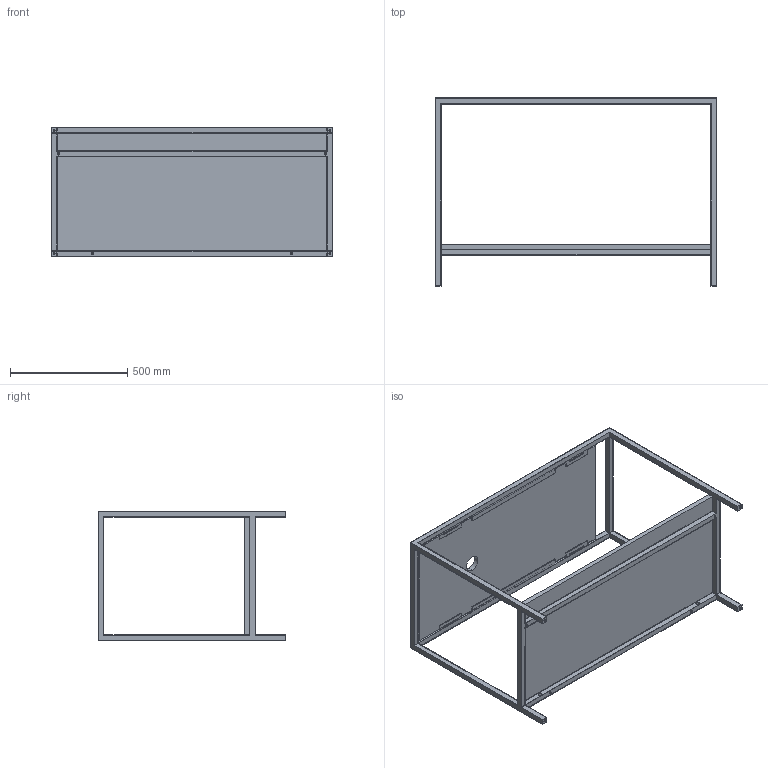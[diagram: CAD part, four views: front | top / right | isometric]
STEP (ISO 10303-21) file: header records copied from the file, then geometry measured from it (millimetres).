
FILE_DESCRIPTION (( 'STEP AP203' ), '1' );
FILE_NAME ('STP 120 04.STEP', '2019-02-04T13:31:20', ( '' ), ( '' ), 'SwSTEP 2.0', 'SolidWorks 2019', '' );
FILE_SCHEMA (( 'CONFIG_CONTROL_DESIGN' ));
Length unit declared in the file: millimetre
Products named in the file (4): piano120; STP 120 04; struttura STAND 120; PIANO MISURA 1070X495 1f decnt
Assembly tree (3 placements, depth 2):
  STP 120 04
    struttura STAND 120
    PIANO MISURA 1070X495 1f decnt
    piano120
Bounding box: 1200 x 800 x 550 mm (x, y, z)
Volume: 24040651.3 mm3; surface area: 4288320.4 mm2
Topology: 3 solids, 3 shells, 186 faces, 506 edges, 308 vertices
Faces by surface type: plane 124, cylinder 54, sphere 8
Entity records: 6228 total; most frequent: CARTESIAN_POINT 998, ORIENTED_EDGE 996, DIRECTION 990, EDGE_CURVE 498, VECTOR 390, LINE 390, VERTEX_POINT 308, AXIS2_PLACEMENT_3D 300
